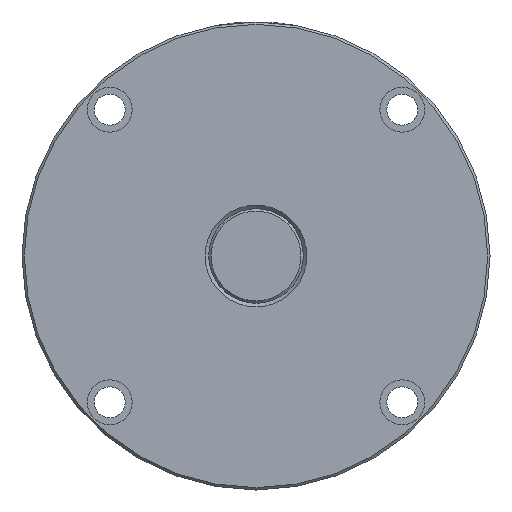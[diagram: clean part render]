
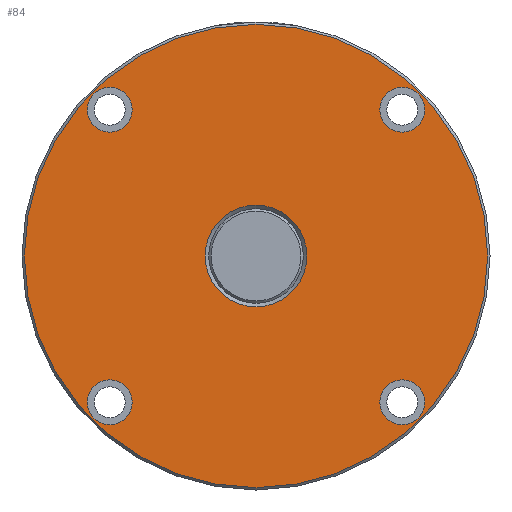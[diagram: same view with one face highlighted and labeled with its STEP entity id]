
A CAD part, left-side view. The second image highlights one B-rep face of the part: STEP entity #84.
In plain terms, the highlighted planar face has unit normal (-1, 0, 0).
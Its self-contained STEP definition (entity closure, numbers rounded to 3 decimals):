
#84 = ADVANCED_FACE( '', ( #137, #138, #139, #140, #141, #142 ), #143, .T. );
#137 = FACE_BOUND( '', #234, .T. );
#138 = FACE_BOUND( '', #235, .T. );
#139 = FACE_BOUND( '', #236, .T. );
#140 = FACE_BOUND( '', #237, .T. );
#141 = FACE_OUTER_BOUND( '', #238, .T. );
#142 = FACE_BOUND( '', #239, .T. );
#143 = PLANE( '', #240 );
#234 = EDGE_LOOP( '', ( #349 ) );
#235 = EDGE_LOOP( '', ( #350 ) );
#236 = EDGE_LOOP( '', ( #351 ) );
#237 = EDGE_LOOP( '', ( #352 ) );
#238 = EDGE_LOOP( '', ( #353 ) );
#239 = EDGE_LOOP( '', ( #354 ) );
#240 = AXIS2_PLACEMENT_3D( '', #355, #356, #357 );
#349 = ORIENTED_EDGE( '', *, *, #475, .T. );
#350 = ORIENTED_EDGE( '', *, *, #476, .T. );
#351 = ORIENTED_EDGE( '', *, *, #477, .T. );
#352 = ORIENTED_EDGE( '', *, *, #478, .T. );
#353 = ORIENTED_EDGE( '', *, *, #479, .T. );
#354 = ORIENTED_EDGE( '', *, *, #480, .F. );
#355 = CARTESIAN_POINT( '', ( 5., 0., 21.5 ) );
#356 = DIRECTION( '', ( -1., 0., 0. ) );
#357 = DIRECTION( '', ( 0., 0., 1. ) );
#475 = EDGE_CURVE( '', #525, #525, #526, .T. );
#476 = EDGE_CURVE( '', #527, #527, #528, .T. );
#477 = EDGE_CURVE( '', #529, #529, #530, .T. );
#478 = EDGE_CURVE( '', #531, #531, #532, .T. );
#479 = EDGE_CURVE( '', #533, #533, #534, .T. );
#480 = EDGE_CURVE( '', #535, #535, #536, .T. );
#525 = VERTEX_POINT( '', #685 );
#526 = CIRCLE( '', #686, 9.5 );
#527 = VERTEX_POINT( '', #687 );
#528 = CIRCLE( '', #688, 9.5 );
#529 = VERTEX_POINT( '', #689 );
#530 = CIRCLE( '', #690, 9.5 );
#531 = VERTEX_POINT( '', #691 );
#532 = CIRCLE( '', #692, 9.5 );
#533 = VERTEX_POINT( '', #693 );
#534 = CIRCLE( '', #694, 98. );
#535 = VERTEX_POINT( '', #695 );
#536 = CIRCLE( '', #696, 21.5 );
#685 = CARTESIAN_POINT( '', ( 5., -61.872, -52.372 ) );
#686 = AXIS2_PLACEMENT_3D( '', #765, #766, #767 );
#687 = CARTESIAN_POINT( '', ( 5., 61.872, -52.372 ) );
#688 = AXIS2_PLACEMENT_3D( '', #768, #769, #770 );
#689 = CARTESIAN_POINT( '', ( 5., 61.872, 71.372 ) );
#690 = AXIS2_PLACEMENT_3D( '', #771, #772, #773 );
#691 = CARTESIAN_POINT( '', ( 5., -61.872, 71.372 ) );
#692 = AXIS2_PLACEMENT_3D( '', #774, #775, #776 );
#693 = CARTESIAN_POINT( '', ( 5., 0., 98. ) );
#694 = AXIS2_PLACEMENT_3D( '', #777, #778, #779 );
#695 = CARTESIAN_POINT( '', ( 5., 0., 21.5 ) );
#696 = AXIS2_PLACEMENT_3D( '', #780, #781, #782 );
#765 = CARTESIAN_POINT( '', ( 5., -61.872, -61.872 ) );
#766 = DIRECTION( '', ( 1., 0., 0. ) );
#767 = DIRECTION( '', ( 0., 0., 1. ) );
#768 = CARTESIAN_POINT( '', ( 5., 61.872, -61.872 ) );
#769 = DIRECTION( '', ( 1., 0., 0. ) );
#770 = DIRECTION( '', ( 0., 0., 1. ) );
#771 = CARTESIAN_POINT( '', ( 5., 61.872, 61.872 ) );
#772 = DIRECTION( '', ( 1., 0., 0. ) );
#773 = DIRECTION( '', ( 0., 0., 1. ) );
#774 = CARTESIAN_POINT( '', ( 5., -61.872, 61.872 ) );
#775 = DIRECTION( '', ( 1., 0., 0. ) );
#776 = DIRECTION( '', ( 0., 0., 1. ) );
#777 = CARTESIAN_POINT( '', ( 5., 0., 0. ) );
#778 = DIRECTION( '', ( -1., 0., 0. ) );
#779 = DIRECTION( '', ( 0., 0., 1. ) );
#780 = CARTESIAN_POINT( '', ( 5., 0., 0. ) );
#781 = DIRECTION( '', ( -1., 0., 0. ) );
#782 = DIRECTION( '', ( 0., 0., 1. ) );
